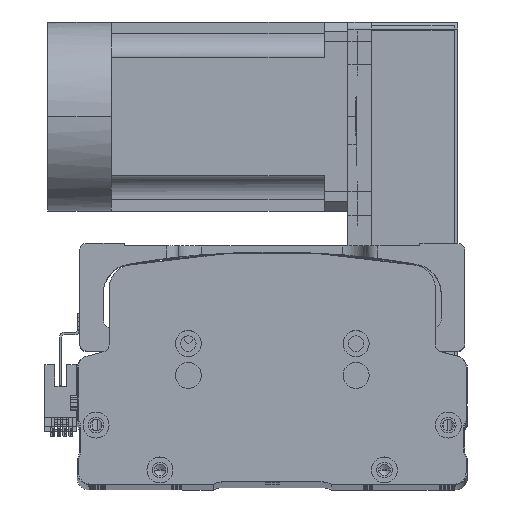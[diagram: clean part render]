
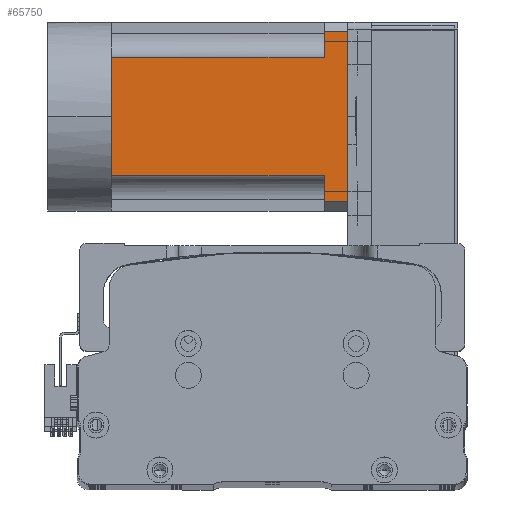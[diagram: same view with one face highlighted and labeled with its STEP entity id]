
A CAD part, top view. The second image highlights one B-rep face of the part: STEP entity #65750.
In plain terms, the highlighted planar face has unit normal (0, 0, 1) as drawn and (0, 0, -1) by its records, which use the part's own axes.
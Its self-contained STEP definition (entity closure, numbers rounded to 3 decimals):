
#695 = LINE ( 'NONE', #5371, #51894 ) ;
#1123 = CARTESIAN_POINT ( 'NONE',  ( 25., 0., -40. ) ) ;
#4053 = ORIENTED_EDGE ( 'NONE', *, *, #45452, .T. ) ;
#4327 = CARTESIAN_POINT ( 'NONE',  ( -40., 100., -40. ) ) ;
#4771 = CARTESIAN_POINT ( 'NONE',  ( -40., -27., -40. ) ) ;
#5011 = EDGE_CURVE ( 'NONE', #35890, #60291, #27469, .T. ) ;
#5121 = CARTESIAN_POINT ( 'NONE',  ( -36., 100., -40. ) ) ;
#5362 = CARTESIAN_POINT ( 'NONE',  ( 0., 0., -40. ) ) ;
#5371 = CARTESIAN_POINT ( 'NONE',  ( -40., 90., -40. ) ) ;
#5567 = EDGE_CURVE ( 'NONE', #48506, #49656, #36228, .T. ) ;
#7626 = DIRECTION ( 'NONE',  ( 0., -1., 0. ) ) ;
#7955 = CARTESIAN_POINT ( 'NONE',  ( 25., 90., -40. ) ) ;
#9140 = VERTEX_POINT ( 'NONE', #19838 ) ;
#9154 = EDGE_CURVE ( 'NONE', #58427, #12694, #55684, .T. ) ;
#9644 = CARTESIAN_POINT ( 'NONE',  ( -25., -27., -40. ) ) ;
#9712 = PLANE ( 'NONE',  #47416 ) ;
#12694 = VERTEX_POINT ( 'NONE', #24766 ) ;
#15862 = EDGE_CURVE ( 'NONE', #60291, #9140, #58331, .T. ) ;
#18987 = VERTEX_POINT ( 'NONE', #7955 ) ;
#19792 = DIRECTION ( 'NONE',  ( -1., 0., 0. ) ) ;
#19838 = CARTESIAN_POINT ( 'NONE',  ( -25., 0., -40. ) ) ;
#20248 = DIRECTION ( 'NONE',  ( -1., 0., 0. ) ) ;
#21828 = VECTOR ( 'NONE', #37003, 1000. ) ;
#23420 = LINE ( 'NONE', #26687, #21828 ) ;
#24766 = CARTESIAN_POINT ( 'NONE',  ( 36., 90., -40. ) ) ;
#26687 = CARTESIAN_POINT ( 'NONE',  ( -40., 90., -40. ) ) ;
#26749 = EDGE_CURVE ( 'NONE', #9140, #52680, #31089, .T. ) ;
#26829 = EDGE_CURVE ( 'NONE', #12694, #18987, #695, .T. ) ;
#27469 = LINE ( 'NONE', #42875, #35528 ) ;
#28513 = VECTOR ( 'NONE', #50655, 1000. ) ;
#29245 = CARTESIAN_POINT ( 'NONE',  ( 36., 100., -40. ) ) ;
#30162 = LINE ( 'NONE', #4327, #45379 ) ;
#31089 = LINE ( 'NONE', #9644, #44699 ) ;
#34109 = EDGE_LOOP ( 'NONE', ( #56702, #60231, #47417, #4053, #48763, #44970, #38108, #34584, #49087 ) ) ;
#34584 = ORIENTED_EDGE ( 'NONE', *, *, #41952, .T. ) ;
#35528 = VECTOR ( 'NONE', #57888, 1000. ) ;
#35890 = VERTEX_POINT ( 'NONE', #1123 ) ;
#36228 = LINE ( 'NONE', #52237, #61793 ) ;
#37003 = DIRECTION ( 'NONE',  ( -1., 0., 0. ) ) ;
#38108 = ORIENTED_EDGE ( 'NONE', *, *, #26749, .T. ) ;
#40253 = DIRECTION ( 'NONE',  ( 0., 1., 0. ) ) ;
#41952 = EDGE_CURVE ( 'NONE', #52680, #48506, #23420, .T. ) ;
#42875 = CARTESIAN_POINT ( 'NONE',  ( -40., 0., -40. ) ) ;
#43007 = CARTESIAN_POINT ( 'NONE',  ( -40., 0., -40. ) ) ;
#43234 = DIRECTION ( 'NONE',  ( -1., 0., 0. ) ) ;
#44699 = VECTOR ( 'NONE', #40253, 1000. ) ;
#44710 = VECTOR ( 'NONE', #43234, 1000. ) ;
#44817 = CARTESIAN_POINT ( 'NONE',  ( -25., 90., -40. ) ) ;
#44970 = ORIENTED_EDGE ( 'NONE', *, *, #15862, .T. ) ;
#45379 = VECTOR ( 'NONE', #19792, 1000. ) ;
#45452 = EDGE_CURVE ( 'NONE', #18987, #35890, #46195, .T. ) ;
#46195 = LINE ( 'NONE', #53409, #59844 ) ;
#47153 = FACE_OUTER_BOUND ( 'NONE', #34109, .T. ) ;
#47416 = AXIS2_PLACEMENT_3D ( 'NONE', #4771, #50839, #20248 ) ;
#47417 = ORIENTED_EDGE ( 'NONE', *, *, #26829, .T. ) ;
#48506 = VERTEX_POINT ( 'NONE', #50195 ) ;
#48763 = ORIENTED_EDGE ( 'NONE', *, *, #5011, .T. ) ;
#49087 = ORIENTED_EDGE ( 'NONE', *, *, #5567, .T. ) ;
#49656 = VERTEX_POINT ( 'NONE', #5121 ) ;
#50195 = CARTESIAN_POINT ( 'NONE',  ( -36., 90., -40. ) ) ;
#50655 = DIRECTION ( 'NONE',  ( 0., -1., 0. ) ) ;
#50839 = DIRECTION ( 'NONE',  ( 0., 0., -1. ) ) ;
#51894 = VECTOR ( 'NONE', #61477, 1000. ) ;
#52237 = CARTESIAN_POINT ( 'NONE',  ( -36., -27., -40. ) ) ;
#52680 = VERTEX_POINT ( 'NONE', #44817 ) ;
#53409 = CARTESIAN_POINT ( 'NONE',  ( 25., -27., -40. ) ) ;
#55684 = LINE ( 'NONE', #55757, #28513 ) ;
#55757 = CARTESIAN_POINT ( 'NONE',  ( 36., -27., -40. ) ) ;
#56702 = ORIENTED_EDGE ( 'NONE', *, *, #61222, .F. ) ;
#57354 = DIRECTION ( 'NONE',  ( 0., 1., 0. ) ) ;
#57888 = DIRECTION ( 'NONE',  ( -1., 0., 0. ) ) ;
#58331 = LINE ( 'NONE', #43007, #44710 ) ;
#58427 = VERTEX_POINT ( 'NONE', #29245 ) ;
#59844 = VECTOR ( 'NONE', #7626, 1000. ) ;
#60231 = ORIENTED_EDGE ( 'NONE', *, *, #9154, .T. ) ;
#60291 = VERTEX_POINT ( 'NONE', #5362 ) ;
#61222 = EDGE_CURVE ( 'NONE', #58427, #49656, #30162, .T. ) ;
#61477 = DIRECTION ( 'NONE',  ( -1., 0., 0. ) ) ;
#61793 = VECTOR ( 'NONE', #57354, 1000. ) ;
#65750 = ADVANCED_FACE ( 'NONE', ( #47153 ), #9712, .T. ) ;
